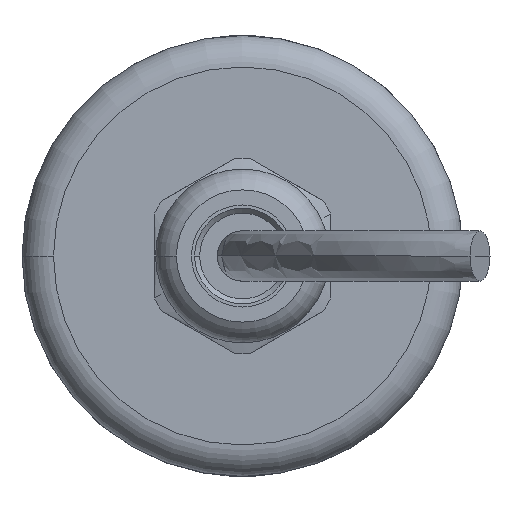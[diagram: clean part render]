
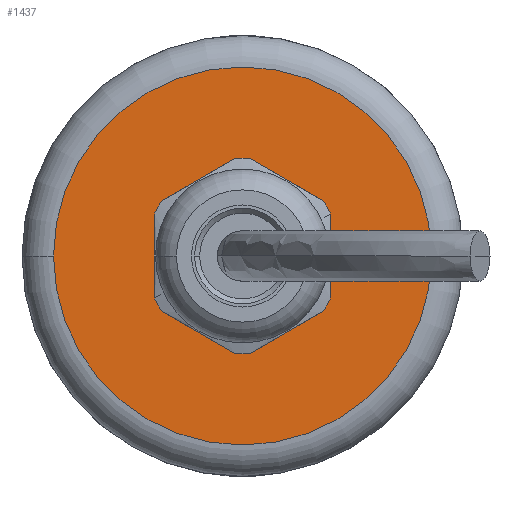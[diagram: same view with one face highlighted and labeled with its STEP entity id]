
A CAD part, left-side view. The second image highlights one B-rep face of the part: STEP entity #1437.
In plain terms, the highlighted planar face has unit normal (-1, 0, 0).
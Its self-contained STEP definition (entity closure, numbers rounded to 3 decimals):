
#59 = EDGE_CURVE ( 'NONE', #129, #3661, #318, .T. ) ;
#129 = VERTEX_POINT ( 'NONE', #3098 ) ;
#318 = CIRCLE ( 'NONE', #4141, 15. ) ;
#330 = ORIENTED_EDGE ( 'NONE', *, *, #59, .T. ) ;
#378 = CARTESIAN_POINT ( 'NONE',  ( -49.15, -0.965, -0.724 ) ) ;
#406 = EDGE_CURVE ( 'NONE', #1664, #4176, #1159, .T. ) ;
#779 = AXIS2_PLACEMENT_3D ( 'NONE', #2396, #3684, #3332 ) ;
#1034 = DIRECTION ( 'NONE',  ( 1., 0., 0. ) ) ;
#1047 = FACE_OUTER_BOUND ( 'NONE', #1440, .T. ) ;
#1104 = DIRECTION ( 'NONE',  ( 1., 0., 0. ) ) ;
#1159 = CIRCLE ( 'NONE', #4075, 6.8 ) ;
#1240 = CARTESIAN_POINT ( 'NONE',  ( -49.15, -15.965, -0.724 ) ) ;
#1333 = EDGE_CURVE ( 'NONE', #3661, #129, #3041, .T. ) ;
#1370 = CARTESIAN_POINT ( 'NONE',  ( -49.15, -0.965, -0.724 ) ) ;
#1437 = ADVANCED_FACE ( 'NONE', ( #1477, #1047 ), #3641, .F. ) ;
#1440 = EDGE_LOOP ( 'NONE', ( #4196, #330 ) ) ;
#1477 = FACE_BOUND ( 'NONE', #3458, .T. ) ;
#1664 = VERTEX_POINT ( 'NONE', #2934 ) ;
#1948 = CIRCLE ( 'NONE', #3518, 6.8 ) ;
#1964 = EDGE_CURVE ( 'NONE', #4176, #1664, #1948, .T. ) ;
#2333 = DIRECTION ( 'NONE',  ( 0., -1., 0. ) ) ;
#2396 = CARTESIAN_POINT ( 'NONE',  ( -49.15, -0.965, -0.724 ) ) ;
#2629 = DIRECTION ( 'NONE',  ( 0., -1., 0. ) ) ;
#2719 = ORIENTED_EDGE ( 'NONE', *, *, #406, .T. ) ;
#2728 = CARTESIAN_POINT ( 'NONE',  ( -49.15, 5.835, -0.724 ) ) ;
#2754 = CARTESIAN_POINT ( 'NONE',  ( -49.15, -0.965, -0.724 ) ) ;
#2934 = CARTESIAN_POINT ( 'NONE',  ( -49.15, -7.765, -0.724 ) ) ;
#2965 = ORIENTED_EDGE ( 'NONE', *, *, #1964, .T. ) ;
#3041 = CIRCLE ( 'NONE', #3579, 15. ) ;
#3098 = CARTESIAN_POINT ( 'NONE',  ( -49.15, 14.035, -0.724 ) ) ;
#3332 = DIRECTION ( 'NONE',  ( 0., -1., 0. ) ) ;
#3404 = DIRECTION ( 'NONE',  ( 0., -1., 0. ) ) ;
#3420 = DIRECTION ( 'NONE',  ( 0., -1., 0. ) ) ;
#3458 = EDGE_LOOP ( 'NONE', ( #2719, #2965 ) ) ;
#3518 = AXIS2_PLACEMENT_3D ( 'NONE', #3953, #1034, #2333 ) ;
#3579 = AXIS2_PLACEMENT_3D ( 'NONE', #1370, #3966, #2629 ) ;
#3631 = DIRECTION ( 'NONE',  ( -1., 0., 0. ) ) ;
#3641 = PLANE ( 'NONE',  #779 ) ;
#3661 = VERTEX_POINT ( 'NONE', #1240 ) ;
#3684 = DIRECTION ( 'NONE',  ( 1., 0., 0. ) ) ;
#3953 = CARTESIAN_POINT ( 'NONE',  ( -49.15, -0.965, -0.724 ) ) ;
#3966 = DIRECTION ( 'NONE',  ( -1., 0., 0. ) ) ;
#4075 = AXIS2_PLACEMENT_3D ( 'NONE', #2754, #1104, #3420 ) ;
#4141 = AXIS2_PLACEMENT_3D ( 'NONE', #378, #3631, #3404 ) ;
#4176 = VERTEX_POINT ( 'NONE', #2728 ) ;
#4196 = ORIENTED_EDGE ( 'NONE', *, *, #1333, .T. ) ;
